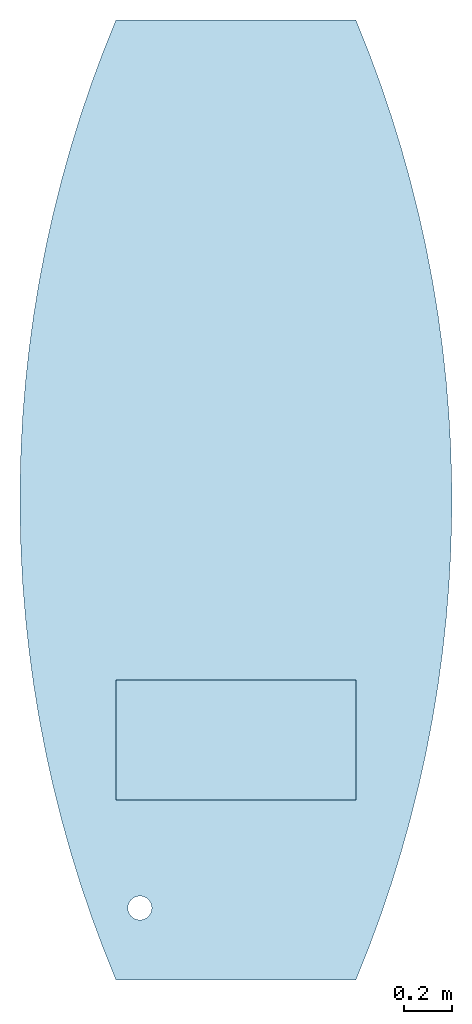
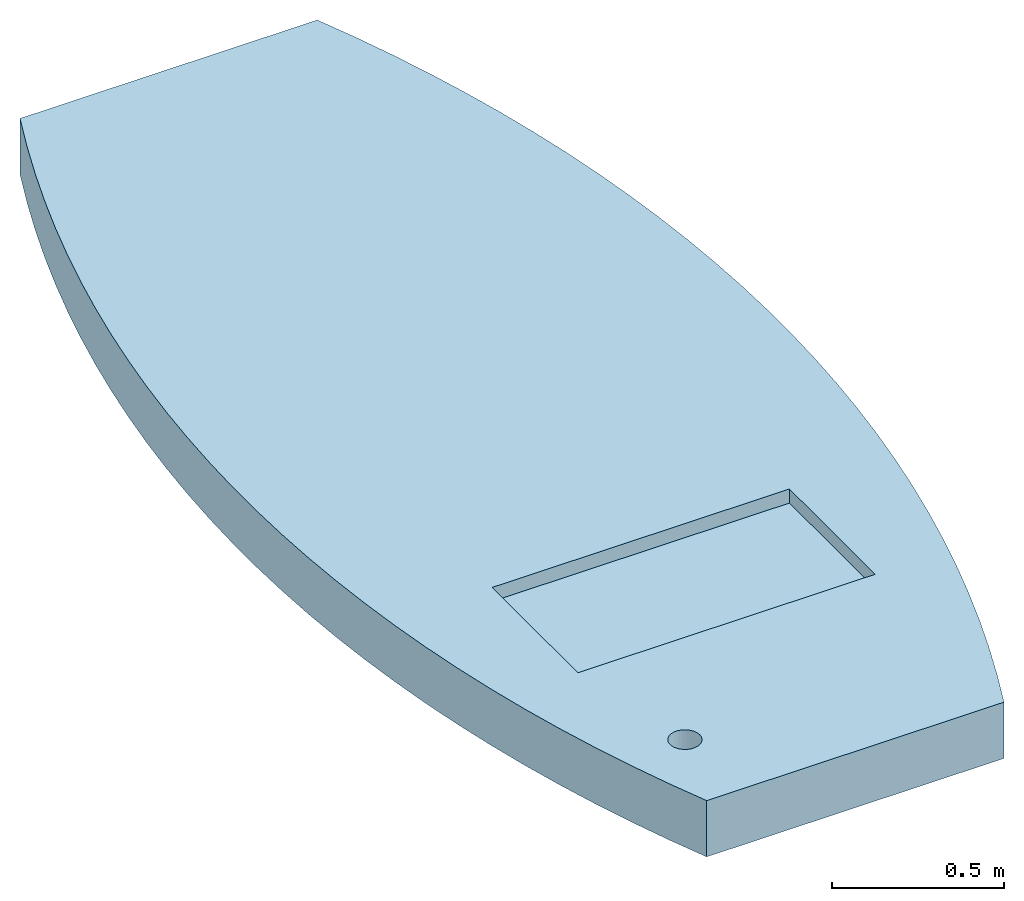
# Not in any storey: 1 slab, 2 openings.
"""IFC4X3_ADD2 building model written with IfcOpenShell, lengths in millimetres."""

import ifcopenshell
import ifcopenshell.guid

model = None  # the IFC model being written
_history = None  # IfcOwnerHistory: only IFC2X3 demands one
_inside = {}  # id of a spatial element -> (the spatial element, [elements in it])
_under = {}  # id of a project, library or spatial element -> (it, [spatial elements below it])
_declared = {}  # id of a project -> (the project, [libraries it declares])
_typed = {}  # id of a type object -> (the type object, [elements of that type])
_made_of = {}  # id of a material, layer set ... -> (it, [elements and type objects made of it])


def new_model(schema):
    """Start an empty IFC model of exactly this schema.

    Asked for "IFC4X3", IfcOpenShell would pick the latest addendum, in which some entities
    have other attributes; the version numbers below select the first issue.
    IFC2X3 requires an IfcOwnerHistory on every rooted entity: one is made here for all.
    """
    global model, _history
    if schema == "IFC4X3":
        model = ifcopenshell.file(schema_version=(4, 3, 0, 0))
    else:
        model = ifcopenshell.file(schema=schema)
    _inside.clear()
    _under.clear()
    _declared.clear()
    _typed.clear()
    _made_of.clear()
    _history = None
    if model.schema == "IFC2X3":
        org = make("IfcOrganization", Name="unknown")
        user = make(
            "IfcPersonAndOrganization",
            ThePerson=make("IfcPerson", FamilyName="unknown"),
            TheOrganization=org,
        )
        app = make(
            "IfcApplication",
            ApplicationDeveloper=org,
            Version="unknown",
            ApplicationFullName="unknown",
            ApplicationIdentifier="unknown",
        )
        _history = make(
            "IfcOwnerHistory",
            OwningUser=user,
            OwningApplication=app,
            ChangeAction="ADDED",
            CreationDate=0,
        )
    return model


def make(cls, **values):
    """One entity of the class cls with the attributes given. An attribute that is None is left unset."""
    return model.create_entity(
        cls, **{name: value for name, value in values.items() if value is not None}
    )


def rooted(cls, **values):
    """An entity with a GlobalId (a new one), such as an element, a storey or a relation."""
    return make(cls, GlobalId=ifcopenshell.guid.new(), OwnerHistory=_history, **values)


def si_unit(unit_type, name, prefix=None):
    """IfcSIUnit, for example si_unit("LENGTHUNIT", "METRE", prefix="MILLI")."""
    return make("IfcSIUnit", UnitType=unit_type, Prefix=prefix, Name=name)


def assignment(units):
    """IfcUnitAssignment: the units of a project."""
    return None if units is None else make("IfcUnitAssignment", Units=units)


def point(xyz):
    """IfcCartesianPoint."""
    return None if xyz is None else make("IfcCartesianPoint", Coordinates=xyz)


def direction(xyz):
    """IfcDirection."""
    return None if xyz is None else make("IfcDirection", DirectionRatios=xyz)


def frame(location, z_axis=None, x_axis=None):
    """IfcAxis2Placement3D, a coordinate frame: its origin and axes. An axis left out is left unset."""
    return make(
        "IfcAxis2Placement3D",
        Location=point(location),
        Axis=direction(z_axis),
        RefDirection=direction(x_axis),
    )


def origin():
    """The frame at (0, 0, 0) with its axes left unset."""
    return frame((0.0, 0.0, 0.0))


def place(relative_to, where):
    """IfcLocalPlacement: puts the frame where relative to a parent placement (None: the world)."""
    return make(
        "IfcLocalPlacement", PlacementRelTo=relative_to, RelativePlacement=where
    )


def context(
    kind, dimensions, precision=None, world=None, true_north=None, identifier=None
):
    """IfcGeometricRepresentationContext, for example the 3D "Model" context."""
    return make(
        "IfcGeometricRepresentationContext",
        ContextIdentifier=identifier,
        ContextType=kind,
        CoordinateSpaceDimension=dimensions,
        Precision=precision,
        WorldCoordinateSystem=world,
        TrueNorth=true_north,
    )


def subcontext(parent, identifier, kind, view, scale=None):
    """IfcGeometricRepresentationSubContext, for example "Body" below "Model"."""
    return make(
        "IfcGeometricRepresentationSubContext",
        ContextIdentifier=identifier,
        ContextType=kind,
        ParentContext=parent,
        TargetScale=scale,
        TargetView=view,
    )


def project(units=None, contexts=None):
    """IfcProject with its units and contexts."""
    return rooted(
        "IfcProject",
        Name="project",
        RepresentationContexts=contexts,
        UnitsInContext=assignment(units),
    )


def spatial(cls, under=None, at=None, **own):
    """A site, building, storey or space (cls), placed at a placement, below another one or the project."""
    s = rooted(cls, ObjectPlacement=at, **own)
    if under is not None:
        _under.setdefault(under.id(), (under, []))[1].append(s)
    return s


def point_list(points):
    """IfcCartesianPointList2D or 3D."""
    cls = (
        "IfcCartesianPointList2D" if len(points[0]) == 2 else "IfcCartesianPointList3D"
    )
    return make(cls, CoordList=points)


def line(*indices):
    """IfcLineIndex: a straight run through numbered points of an indexed curve."""
    return model.create_entity("IfcLineIndex", indices)


def arc(*indices):
    """IfcArcIndex: an arc through three numbered points of an indexed curve."""
    return model.create_entity("IfcArcIndex", indices)


def indexed_curve(points, segments=None, self_intersect=None):
    """IfcIndexedPolyCurve: lines and arcs through numbered points (the first is 1)."""
    return make(
        "IfcIndexedPolyCurve",
        Points=point_list(points),
        Segments=segments,
        SelfIntersect=self_intersect,
    )


def profile(cls, at=None, kind="AREA", **sizes):
    """A parametric profile (cls). Its sizes go by their IFC names, for example OverallWidth=200.0."""
    return make(cls, ProfileType=kind, Position=at, **sizes)


def rectangle(**sizes):
    """IfcRectangleProfileDef."""
    return profile("IfcRectangleProfileDef", **sizes)


def circle(**sizes):
    """IfcCircleProfileDef."""
    return profile("IfcCircleProfileDef", **sizes)


def outline(outer, holes=None, kind="AREA"):
    """IfcArbitraryClosedProfileDef: a profile drawn as a closed curve; with holes, ...WithVoids."""
    if holes is None:
        return make("IfcArbitraryClosedProfileDef", ProfileType=kind, OuterCurve=outer)
    return make(
        "IfcArbitraryProfileDefWithVoids",
        ProfileType=kind,
        OuterCurve=outer,
        InnerCurves=holes,
    )


def extrude(swept, where, along, depth):
    """IfcExtrudedAreaSolid: the profile swept, set in the frame where, extruded along a direction by depth."""
    return make(
        "IfcExtrudedAreaSolid",
        SweptArea=swept,
        Position=where,
        ExtrudedDirection=direction(along),
        Depth=depth,
    )


def shape(context_of_items, identifier, shape_type, items):
    """IfcShapeRepresentation: the items that make up one representation, for example the "Body"."""
    return make(
        "IfcShapeRepresentation",
        ContextOfItems=context_of_items,
        RepresentationIdentifier=identifier,
        RepresentationType=shape_type,
        Items=items,
    )


def material(Name=None, Category=None):
    """IfcMaterial."""
    return make("IfcMaterial", Name=Name, Category=Category)


def layer(
    of_material, thickness, ventilated=None, Name=None, Category=None, Priority=None
):
    """IfcMaterialLayer: one layer of a wall or slab, of a material (None: an air gap)."""
    return make(
        "IfcMaterialLayer",
        Material=of_material,
        LayerThickness=thickness,
        IsVentilated=ventilated,
        Name=Name,
        Category=Category,
        Priority=Priority,
    )


def layer_set(layers, Name=None):
    """IfcMaterialLayerSet."""
    return make("IfcMaterialLayerSet", MaterialLayers=layers, LayerSetName=Name)


def layer_usage(for_layer_set, set_direction, sense, offset, extent=None):
    """IfcMaterialLayerSetUsage: how a layer set lies in its element."""
    return make(
        "IfcMaterialLayerSetUsage",
        ForLayerSet=for_layer_set,
        LayerSetDirection=set_direction,
        DirectionSense=sense,
        OffsetFromReferenceLine=offset,
        ReferenceExtent=extent,
    )


def made_of(thing, what):
    """Note that an element or type object is made of a material, layer set ...; save() writes the relation."""
    if what is not None:
        _made_of.setdefault(what.id(), (what, []))[1].append(thing)
    return thing


def element(
    cls,
    number,
    at=None,
    inside=None,
    cuts=None,
    type_object=None,
    material=None,
    context=None,
    identifier="Body",
    shape_type=None,
    held_by="IfcProductDefinitionShape",
    body=None,
    shapes=None,
    **own,
):
    """One element of the class cls, such as IfcWall. Its Tag is "e" and its number.

    at: its placement. inside: the storey or other place that contains it. cuts: it is an
    opening in that element (IfcRelVoidsElement). A single representation is given by context,
    identifier, shape_type and body (its items); several are given by shapes. held_by: the class
    of the entity that holds the representations. save() writes the other relations.
    """
    e = rooted(cls, Tag="e%d" % number, ObjectPlacement=at, **own)
    if body is not None:
        shapes = [shape(context, identifier, shape_type, body)]
    if shapes is not None:
        e.Representation = make(held_by, Representations=shapes)
    if inside is not None:
        _inside.setdefault(inside.id(), (inside, []))[1].append(e)
    if cuts is not None:
        rooted(
            "IfcRelVoidsElement", RelatingBuildingElement=cuts, RelatedOpeningElement=e
        )
    if type_object is not None:
        _typed.setdefault(type_object.id(), (type_object, []))[1].append(e)
    return made_of(e, material)


def aggregate(whole, parts):
    """IfcRelAggregates: a whole, such as a stair, and the parts it consists of."""
    return rooted("IfcRelAggregates", RelatingObject=whole, RelatedObjects=parts)


def save(model, path):
    """Write the relations noted so far, then the file.

    IfcRelAggregates (storeys below a building ...), IfcRelContainedInSpatialStructure (elements
    in a storey), IfcRelDefinesByType, IfcRelAssociatesMaterial and IfcRelDeclares: one each for
    every whole, place, type object, material and project.
    """
    for whole, parts in _under.values():
        aggregate(whole, parts)
    for where, things in _inside.values():
        rooted(
            "IfcRelContainedInSpatialStructure",
            RelatedElements=things,
            RelatingStructure=where,
        )
    for kind, things in _typed.values():
        rooted("IfcRelDefinesByType", RelatedObjects=things, RelatingType=kind)
    for what, things in _made_of.values():
        rooted("IfcRelAssociatesMaterial", RelatedObjects=things, RelatingMaterial=what)
    for by, libraries in _declared.values():
        rooted("IfcRelDeclares", RelatingContext=by, RelatedDefinitions=libraries)
    model.write(path)


model = new_model("IFC4X3_ADD2")

# Units and contexts
model_context = context("Model", 3, precision=0.0001, world=origin())
body_context = subcontext(model_context, "Body", "Model", "MODEL_VIEW")
ifc_project = project(units=[si_unit("LENGTHUNIT", "METRE", prefix="MILLI"), si_unit("PLANEANGLEUNIT", "RADIAN"), si_unit("TIMEUNIT", "SECOND")], contexts=[model_context])

# Building
building = spatial("IfcBuilding", under=ifc_project, Name="IfcBuilding")

# Slab, openings
ifc_material = material(Name="Concrete")
ifc_layer = layer(ifc_material, 200.0, ventilated="UNKNOWN", Name="Core")
ifc_layer_set = layer_set([ifc_layer], Name="200mm Concrete")
ifc_layer_usage = layer_usage(ifc_layer_set, "AXIS3", "POSITIVE", -200.0)
slab_placement = place(None, frame((0.0, 0.0, -200.0)))
slab = element("IfcSlab", 1, at=slab_placement, inside=building, material=ifc_layer_usage, context=body_context, shape_type="SweptSolid", body=[
    extrude(outline(indexed_curve([(0.0, 0.0), (1000.0, 0.0), (1399.99999999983, 2000.0), (1000.0, 4000.0), (0.0, 4000.0), (-400.000000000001, 2000.0)], segments=[line(1, 2), arc(2, 3, 4), line(4, 5), arc(5, 6, 1)], self_intersect=False)), None, (0.0, 0.0, 1.0), 200.0),
])
opening_1_placement = place(None, origin())
element("IfcOpeningElement", 2, at=opening_1_placement, cuts=slab, Name="Opening", context=body_context, shape_type="SweptSolid", body=[
    extrude(circle(Radius=50.0), frame((100.0, 300.0, -200.0)), (0.0, 0.0, 1.0), 200.0),
])
opening_2_placement = place(None, origin())
element("IfcOpeningElement", 3, at=opening_2_placement, cuts=slab, Name="Recess", PredefinedType="RECESS", context=body_context, shape_type="SweptSolid", body=[
    extrude(rectangle(XDim=1000.0, YDim=500.0), frame((500.0, 1000.0, -50.0)), (0.0, 0.0, 1.0), 50.0),
])

save(model, "model.ifc")
